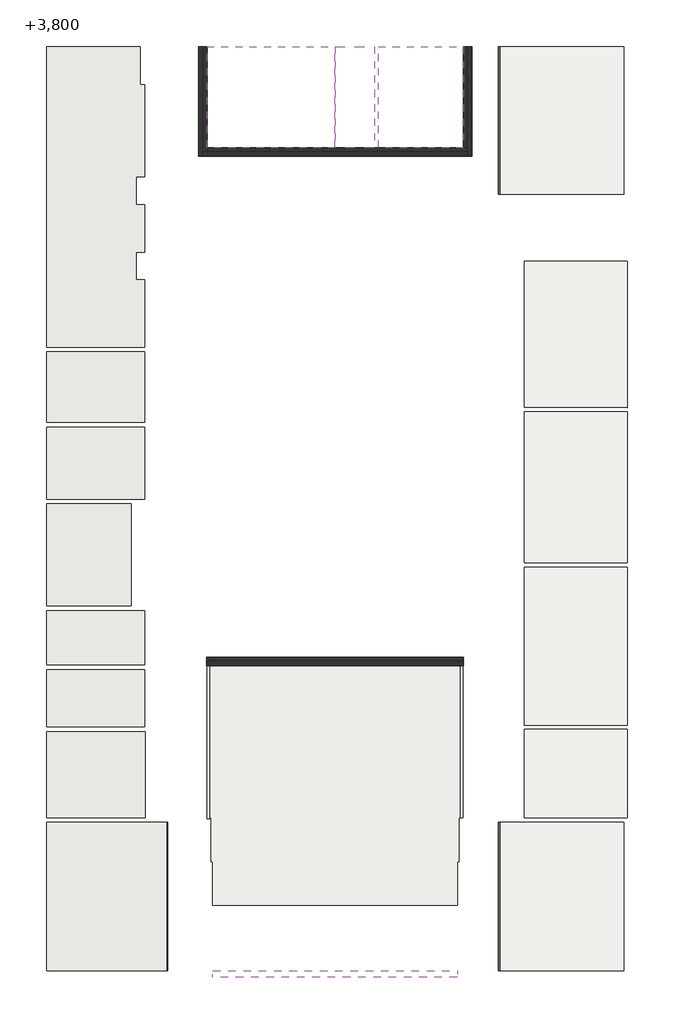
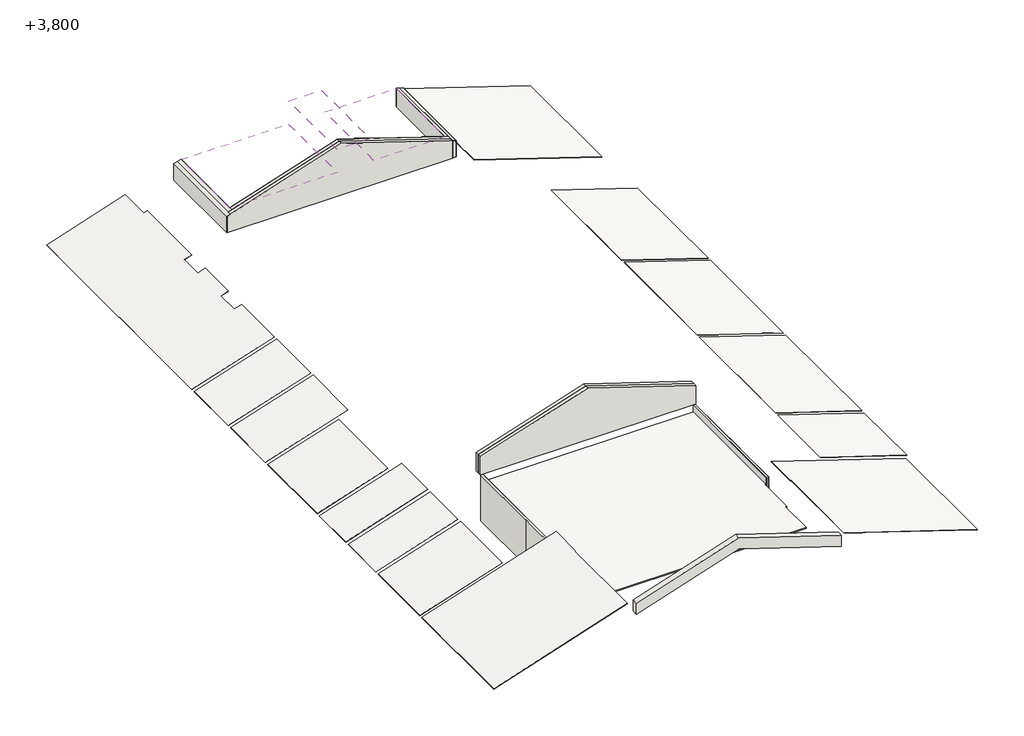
# One storey: 22 walls, 18 coverings.
"""IFC4 building model written with IfcOpenShell, lengths in millimetres."""

from ifc_helpers import new_model, si_unit, frame, origin, place, context, project, spatial, polyline, outline, extrude, faceted_brep, element, save

model = new_model("IFC4")

# Units and contexts
model_context = context("Model", 3, world=origin())
ifc_project = project(units=[si_unit("LENGTHUNIT", "METRE", prefix="MILLI")], contexts=[model_context])

# Site, building, storey
site = spatial("IfcSite", under=ifc_project)
building = spatial("IfcBuilding", under=site)
storey = spatial("IfcBuildingStorey", under=building, Name="+3,800", Elevation=3800.0)

# Coverings
placement = place(None, origin())
element("IfcCovering", 1, ObjectType="ADSK_Потолок_Полимерное покрытие", at=placement, inside=storey, context=model_context, shape_type="SweptSolid", body=[
    extrude(outline(polyline([(4659.9030929, 2392.0415712), (3850.5146222, -99.0), (3840.0, -99.0), (4649.3884706, 2392.0415712), (4659.9030929, 2392.0415712)])), frame((0.0, 10643.0, 0.0), z_axis=(0.0, 1.0, 0.0), x_axis=(0.0, 0.0, 1.0)), (0.0, 0.0, 1.0), 2994.0024506),
])
element("IfcCovering", 2, ObjectType="ADSK_Потолок_Полимерное покрытие", at=placement, inside=storey, context=model_context, shape_type="SweptSolid", body=[
    extrude(outline(polyline([(3814.0146222, 17005.0), (4796.5717837, 13981.0), (4786.0571614, 13981.0), (3803.5, 17005.0), (3814.0146222, 17005.0)])), frame((0.0, 4400.9957095, 0.0), z_axis=(0.0, 1.0, 0.0), x_axis=(0.0, 0.0, 1.0)), (0.0, 0.0, 1.0), 2598.0042905),
])
element("IfcCovering", 3, ObjectType="ADSK_Потолок_Полимерное покрытие", at=placement, inside=storey, context=model_context, shape_type="SweptSolid", body=[
    extrude(outline(polyline([(3814.012817, 17005.0), (4796.5699784, 13981.0), (4786.0553561, 13981.0), (3803.4981947, 17005.0), (3814.012817, 17005.0)])), frame((0.0, 7126.0, 0.0), z_axis=(0.0, 1.0, 0.0), x_axis=(0.0, 0.0, 1.0)), (0.0, 0.0, 1.0), 4648.0),
])
element("IfcCovering", 4, ObjectType="ADSK_Потолок_Полимерное покрытие", at=placement, inside=storey, context=model_context, shape_type="SweptSolid", body=[
    extrude(outline(polyline([(3814.0146222, 17005.0), (4796.5717837, 13981.0), (4786.0571614, 13981.0), (3803.5, 17005.0), (3814.0146222, 17005.0)])), frame((0.0, 11901.0, 0.0), z_axis=(0.0, 1.0, 0.0), x_axis=(0.0, 0.0, 1.0)), (0.0, 0.0, 1.0), 4447.9313142),
])
element("IfcCovering", 5, ObjectType="ADSK_Потолок_Полимерное покрытие", at=placement, inside=storey, context=model_context, shape_type="SweptSolid", body=[
    extrude(outline(polyline([(3814.0146222, 17005.0), (4796.5717837, 13981.0), (4786.0571614, 13981.0), (3803.5, 17005.0), (3814.0146222, 17005.0)])), frame((0.0, 16475.9313142, 0.0), z_axis=(0.0, 1.0, 0.0), x_axis=(0.0, 0.0, 1.0)), (0.0, 0.0, 1.0), 4298.5686858),
])
element("IfcCovering", 6, ObjectType="ADSK_Потолок_Полимерное покрытие", at=placement, inside=storey, context=model_context, shape_type="SweptSolid", body=[
    extrude(outline(polyline([(4790.9158206, 2795.2572865), (3850.5146222, -99.0), (3840.0, -99.0), (4780.4011984, 2795.2572865), (4790.9158206, 2795.2572865)])), frame((0.0, 16039.9976367, 0.0), z_axis=(0.0, 1.0, 0.0), x_axis=(0.0, 0.0, 1.0)), (0.0, 0.0, 1.0), 2070.0023633),
])
element("IfcCovering", 7, ObjectType="ADSK_Потолок_Полимерное покрытие", at=placement, inside=storey, context=model_context, shape_type="SweptSolid", body=[
    extrude(outline(polyline([(4790.9158206, 2795.2572865), (3850.5146222, -99.0), (3840.0, -99.0), (4780.4011984, 2795.2572865), (4790.9158206, 2795.2572865)])), frame((0.0, 13780.0024506, 0.0), z_axis=(0.0, 1.0, 0.0), x_axis=(0.0, 0.0, 1.0)), (0.0, 0.0, 1.0), 2119.9951861),
])
element("IfcCovering", 8, ObjectType="ADSK_Потолок_Полимерное покрытие", at=placement, inside=storey, context=model_context, shape_type="Brep", body=[
    faceted_brep([(12435.0, 23865.0, 5264.4561462), (12406.0, 23865.0, 5273.8788174), (12406.0, 22746.0, 5273.8788174), (16899.0, 22746.0, 3814.0146222), (16899.0, 27100.0, 3814.0146222), (12435.0, 27100.0, 5264.4561462), (12435.0, 23865.0, 5253.941524), (12435.0, 27100.0, 5253.941524), (16899.0, 27100.0, 3803.5), (16899.0, 22746.0, 3803.5), (12406.0, 22746.0, 5263.3641952), (12406.0, 23865.0, 5263.3641952)], [[[0, 1, 2, 3, 4, 5]], [[6, 7, 8, 9, 10, 11]], [[1, 0, 6, 11]], [[2, 1, 11, 10]], [[3, 2, 10, 9]], [[4, 3, 9, 8]], [[5, 4, 8, 7]], [[0, 5, 7, 6]]]),
])
element("IfcCovering", 9, ObjectType="ADSK_Потолок_Полимерное покрытие", at=placement, inside=storey, context=model_context, shape_type="SweptSolid", body=[
    extrude(outline(polyline([(4789.9857435, 2792.3948034), (3850.5146222, -99.0), (3840.0, -99.0), (4779.4711212, 2792.3948034), (4789.9857435, 2792.3948034)])), frame((0.0, 8903.0, 0.0), z_axis=(0.0, 1.0, 0.0), x_axis=(0.0, 0.0, 1.0)), (0.0, 0.0, 1.0), 1594.0),
])
element("IfcCovering", 10, ObjectType="ADSK_Потолок_Полимерное покрытие", at=placement, inside=storey, context=model_context, shape_type="SweptSolid", body=[
    extrude(outline(polyline([(4789.9857435, 2792.3948034), (3850.5146222, -99.0), (3840.0, -99.0), (4779.4711212, 2792.3948034), (4789.9857435, 2792.3948034)])), frame((0.0, 7073.1398515, 0.0), z_axis=(0.0, 1.0, 0.0), x_axis=(0.0, 0.0, 1.0)), (0.0, 0.0, 1.0), 1683.8601485),
])
element("IfcCovering", 11, ObjectType="ADSK_Потолок_Полимерное покрытие", at=placement, inside=storey, context=model_context, shape_type="SweptSolid", body=[
    extrude(outline(polyline([(4792.2150844, 2799.2560094), (3850.5146222, -99.0), (3840.0, -99.0), (4781.7004622, 2799.2560094), (4792.2150844, 2799.2560094)])), frame((0.0, 4400.9957095, 0.0), z_axis=(0.0, 1.0, 0.0), x_axis=(0.0, 0.0, 1.0)), (0.0, 0.0, 1.0), 2528.874142),
])
element("IfcCovering", 12, ObjectType="ADSK_Потолок_Полимерное покрытие", at=placement, inside=storey, context=model_context, shape_type="Brep", body=[
    faceted_brep([(4624.0, 4273.9957095, 5385.1103475), (-99.0, 4273.9957095, 3850.5146222), (-99.0, -99.0, 3850.5146222), (4599.0, -99.0, 5376.9873551), (4599.0, 3101.5, 5376.9873551), (4624.0, 3101.5, 5385.1103475), (4624.0, 4273.9957095, 5374.5957253), (4624.0, 3101.5, 5374.5957253), (4599.0, 3101.5, 5366.4727329), (4599.0, -99.0, 5366.4727329), (-99.0, -99.0, 3840.0), (-99.0, 4273.9957095, 3840.0)], [[[0, 1, 2, 3, 4, 5]], [[6, 7, 8, 9, 10, 11]], [[1, 0, 6, 11]], [[2, 1, 11, 10]], [[3, 2, 10, 9]], [[4, 3, 9, 8]], [[5, 4, 8, 7]], [[0, 5, 7, 6]]]),
])
element("IfcCovering", 13, ObjectType="ADSK_Потолок_Полимерное покрытие", at=placement, inside=storey, context=model_context, shape_type="Brep", body=[
    faceted_brep([(2795.2572865, 20229.9176368, 4790.9158206), (2535.2572925, 20229.9176368, 4706.4367015), (2535.2572925, 21049.9176368, 4706.4367015), (2795.2572865, 21049.9176368, 4790.9158206), (2795.2572865, 22449.9176629, 4790.9158206), (2535.2572925, 22449.9176629, 4706.4367015), (2535.2572925, 23269.9176524, 4706.4367015), (2795.2572865, 23269.9176524, 4790.9158206), (2795.2572865, 25969.9955786, 4790.9158206), (2665.2572865, 25969.9955786, 4748.6762601), (2665.2572865, 27099.0, 4748.6762601), (-99.0, 27099.0, 3850.5146222), (-99.0, 18250.0, 3850.5146222), (2795.2572865, 18250.0, 4790.9158206), (2795.2572865, 20229.9176368, 4780.4011984), (2795.2572865, 18250.0, 4780.4011984), (-99.0, 18250.0, 3840.0), (-99.0, 27099.0, 3840.0), (2665.2572865, 27099.0, 4738.1616379), (2665.2572865, 25969.9955786, 4738.1616379), (2795.2572865, 25969.9955786, 4780.4011984), (2795.2572865, 23269.9176524, 4780.4011984), (2535.2572925, 23269.9176524, 4695.9220793), (2535.2572925, 22449.9176629, 4695.9220793), (2795.2572865, 22449.9176629, 4780.4011984), (2795.2572865, 21049.9176368, 4780.4011984), (2535.2572925, 21049.9176368, 4695.9220793), (2535.2572925, 20229.9176368, 4695.9220793)], [[[0, 1, 2, 3, 4, 5, 6, 7, 8, 9, 10, 11, 12, 13]], [[14, 15, 16, 17, 18, 19, 20, 21, 22, 23, 24, 25, 26, 27]], [[1, 0, 14, 27]], [[2, 1, 27, 26]], [[3, 2, 26, 25]], [[4, 3, 25, 24]], [[5, 4, 24, 23]], [[6, 5, 23, 22]], [[7, 6, 22, 21]], [[8, 7, 21, 20]], [[9, 8, 20, 19]], [[10, 9, 19, 18]], [[11, 10, 18, 17]], [[12, 11, 17, 16]], [[13, 12, 16, 15]], [[0, 13, 15, 14]]]),
])
element("IfcCovering", 14, ObjectType="ADSK_Потолок_Полимерное покрытие", at=placement, inside=storey, context=model_context, shape_type="Brep", body=[
    faceted_brep([(12176.1086127, 3101.0, 5348.5750572), (12201.0, 3101.0, 5340.4873551), (12201.0, -99.0, 5340.4873551), (16899.0, -99.0, 3814.0146222), (16899.0, 4273.9957095, 3814.0146222), (12176.1086127, 4273.9957095, 5348.5750572), (12176.1086127, 3101.0, 5338.0604349), (12176.1086127, 4273.9957095, 5338.0604349), (16899.0, 4273.9957095, 3803.5), (16899.0, -99.0, 3803.5), (12201.0, -99.0, 5329.9727329), (12201.0, 3101.0, 5329.9727329)], [[[0, 1, 2, 3, 4, 5]], [[6, 7, 8, 9, 10, 11]], [[1, 0, 6, 11]], [[2, 1, 11, 10]], [[3, 2, 10, 9]], [[4, 3, 9, 8]], [[5, 4, 8, 7]], [[0, 5, 7, 6]]]),
])
element("IfcCovering", 15, ObjectType="ADSK_Подвесной_Грильято белый 100х100 мм", at=placement, inside=storey, context=model_context, shape_type="SweptSolid", body=[
    extrude(outline(polyline([(4707.5630762, 8865.0000003), (12086.5, 8865.0000003), (12086.5, 4400.9957095), (12049.0, 4400.9957095), (12049.0, 3101.0), (12000.0, 3101.0), (12000.0, 1825.0), (4800.0, 1825.0), (4800.0, 3100.5), (4751.0, 3100.5), (4751.0, 4400.9957095), (4707.5630762, 4400.9957095), (4707.5630762, 8865.0000003)])), frame((0.0, 0.0, 4400.0), z_axis=(0.0, 0.0, 1.0), x_axis=(1.0, 0.0, 0.0)), (0.0, 0.0, 1.0), 40.0),
])
element("IfcCovering", 16, ObjectType="ADSK_Потолок_Полимерное покрытие", at=placement, inside=storey, context=model_context, shape_type="SweptSolid", body=[
    extrude(outline(polyline([(5382.0993046, 12179.0), (6193.7487058, 9681.0), (6183.2340836, 9681.0), (5371.5846824, 12179.0), (5382.0993046, 12179.0)])), frame((0.0, 24126.0, 0.0), z_axis=(0.0, 1.0, 0.0), x_axis=(0.0, 0.0, 1.0)), (0.0, 0.0, 1.0), 2973.0),
])
element("IfcCovering", 17, ObjectType="ADSK_Потолок_Полимерное покрытие", at=placement, inside=storey, context=model_context, shape_type="SweptSolid", body=[
    extrude(outline(polyline([(6235.0406098, 9554.0), (6609.9979392, 8400.0), (6599.483317, 8400.0), (6224.5259875, 9554.0), (6235.0406098, 9554.0)])), frame((0.0, 24126.0, 0.0), z_axis=(0.0, 1.0, 0.0), x_axis=(0.0, 0.0, 1.0)), (0.0, 0.0, 1.0), 2973.0),
])
element("IfcCovering", 18, ObjectType="ADSK_Потолок_Полимерное покрытие", at=placement, inside=storey, context=model_context, shape_type="SweptSolid", body=[
    extrude(outline(polyline([(6609.9931715, 8400.0), (5383.7462379, 4626.0), (5373.2316157, 4626.0), (6599.4785492, 8400.0), (6609.9931715, 8400.0)])), frame((0.0, 24126.0, 0.0), z_axis=(0.0, 1.0, 0.0), x_axis=(0.0, 0.0, 1.0)), (0.0, 0.0, 1.0), 2973.0),
])

# Walls
element("IfcWall", 19, ObjectType="ADSK_Наружная_Сэндвич_Утеплитель_200 RAL 1015", at=placement, inside=storey, context=model_context, shape_type="SweptSolid", body=[
    extrude(outline(polyline([(5440.2611024, 4800.0), (5024.9616899, 4800.0), (6194.6725964, 8400.0), (5024.9616899, 12000.0), (5440.2611024, 12000.0), (6610.0, 8400.0), (5440.2611024, 4800.0)])), frame((0.0, -300.0, 0.0), z_axis=(0.0, 1.0, 0.0), x_axis=(0.0, 0.0, 1.0)), (0.0, 0.0, 1.0), 200.0),
])
element("IfcWall", 20, ObjectType="Перегородка-КНАУФ-С365-Применение внутри здания-200/75@600 ГВЛ(ГВЛВ)  12,5 2", at=placement, inside=storey, context=model_context, shape_type="Brep", body=[
    faceted_brep([(4500.0, 23875.0, 4695.0), (4500.0, 24000.0, 4695.0), (4500.0, 27100.0, 4695.0), (4500.0, 27100.0, 5342.782861), (4500.0, 24000.0, 5342.782861), (4500.0, 23875.0, 5342.782861), (4375.0, 23875.0, 4695.0), (4375.0, 23875.0, 5302.166927), (4375.0, 27100.0, 5302.166927), (4375.0, 27100.0, 4695.0)], [[[0, 1, 2, 3, 4, 5]], [[6, 7, 8, 9]], [[2, 1, 0, 6, 9]], [[0, 5, 7, 6]], [[5, 4, 3, 8, 7]], [[3, 2, 9, 8]]]),
])
element("IfcWall", 21, ObjectType="Облицовка КНАУФ С626 Применение внутри здания ПС50х50 ПН50х40 шаг 400 ГСП-А 12.5", at=placement, inside=storey, context=model_context, shape_type="Brep", body=[
    faceted_brep([(4631.5630762, 4375.0000003, 3000.0), (4631.5630762, 4375.0000003, 4695.0), (4631.5630762, 4400.9957095, 4695.0), (4631.5630762, 5859.0, 4695.0), (4631.5630762, 5859.0, 3000.0), (4631.5630762, 4400.9957095, 3000.0), (4631.5630762, 8875.0000003, 4695.0), (4631.5630762, 8875.0000003, 3000.0), (4631.5630762, 8866.0000003, 3000.0), (4631.5630762, 6141.0, 3000.0), (4631.5630762, 6141.0, 4695.0), (4631.5630762, 8866.0000003, 4695.0), (4706.5630762, 4375.0000003, 3000.0), (4706.5630762, 8875.0000003, 3000.0), (4706.5630762, 8875.0000003, 4695.0), (4706.5630762, 4375.0000003, 4695.0), (4632.5630762, 5859.0, 3000.0), (4632.5630762, 6141.0, 3000.0), (4632.5630762, 6141.0, 4695.0), (4632.5630762, 5859.0, 4695.0)], [[[0, 1, 2, 3, 4, 5]], [[6, 7, 8, 9, 10, 11]], [[12, 13, 14, 15]], [[13, 12, 0, 5, 4, 16, 17, 9, 8, 7]], [[1, 0, 12, 15]], [[15, 14, 6, 11, 10, 18, 19, 3, 2, 1]], [[7, 6, 14, 13]], [[16, 19, 18, 17]], [[19, 16, 4, 3]], [[17, 18, 10, 9]]]),
])
element("IfcWall", 22, ObjectType="Облицовка КНАУФ С626 Применение внутри здания ПС50х50 ПН50х40 шаг 400 ГСП-А 12.5", at=placement, inside=storey, context=model_context, shape_type="Brep", body=[
    faceted_brep([(12087.5, 8866.0000003, 3000.0), (12087.5, 8865.0000003, 3000.0), (12087.5, 4400.9957095, 3000.0), (12087.5, 4399.9957095, 3000.0), (12087.5, 4399.9957095, 4695.0), (12087.5, 4400.9957095, 4695.0), (12087.5, 8865.0000003, 4695.0), (12087.5, 8866.0000003, 4695.0), (12162.5, 4399.9957095, 4695.0), (12162.5, 4399.9957095, 3000.0), (12162.5, 4400.9957095, 3000.0), (12162.5, 5860.0, 3000.0), (12162.5, 5860.0, 4695.0), (12162.5, 4400.9957095, 4695.0), (12162.5, 8866.0000003, 3000.0), (12162.5, 8866.0000003, 4695.0), (12162.5, 8865.0000003, 4695.0), (12162.5, 6141.0, 4695.0), (12162.5, 6141.0, 3000.0), (12162.5, 8865.0000003, 3000.0), (12161.5, 6141.0, 3000.0), (12161.5, 5860.0, 3000.0), (12161.5, 5860.0, 4695.0), (12161.5, 6141.0, 4695.0)], [[[0, 1, 2, 3, 4, 5, 6, 7]], [[8, 9, 10, 11, 12, 13]], [[14, 15, 16, 17, 18, 19]], [[3, 2, 1, 0, 14, 19, 18, 20, 21, 11, 10, 9]], [[4, 3, 9, 8]], [[7, 6, 5, 4, 8, 13, 12, 22, 23, 17, 16, 15]], [[0, 7, 15, 14]], [[20, 23, 22, 21]], [[23, 20, 18, 17]], [[21, 22, 12, 11]]]),
])
element("IfcWall", 23, ObjectType="Отделка - Акриловая покраска по Кнауф-суперлистам_1 мм", at=placement, inside=storey, context=model_context, shape_type="Brep", body=[
    faceted_brep([(4625.0, 24125.0, 4695.0), (9555.0, 24125.0, 4695.0), (9555.0, 24125.0, 6234.7087704), (8400.0, 24125.0, 6610.0), (4625.0, 24125.0, 5383.3987949), (4625.0, 24126.0, 4695.0), (4625.0, 24126.0, 5383.3987949), (4626.0, 24126.0, 5383.7237224), (8400.0, 24126.0, 6610.0), (9555.0, 24126.0, 6234.7087704), (9555.0, 24126.0, 4695.0), (4626.0, 24126.0, 4695.0)], [[[0, 1, 2, 3, 4]], [[5, 6, 7, 8, 9, 10, 11]], [[1, 0, 5, 11, 10]], [[2, 1, 10, 9]], [[0, 4, 6, 5]], [[4, 3, 8, 7, 6]], [[3, 2, 9, 8]]]),
])
element("IfcWall", 24, ObjectType="Отделка - Акриловая покраска по Кнауф-суперлистам_1 мм", at=placement, inside=storey, context=model_context, shape_type="SweptSolid", body=[
    extrude(outline(polyline([(5383.3987949, 4625.0), (4695.0, 4625.0), (4695.0, 4626.0), (5383.7237224, 4626.0), (5383.3987949, 4625.0)])), frame((0.0, 24126.0, 0.0), z_axis=(0.0, 1.0, 0.0), x_axis=(0.0, 0.0, 1.0)), (0.0, 0.0, 1.0), 2973.5),
])
element("IfcWall", 25, ObjectType="Отделка - Акриловая покраска по Кнауф-суперлистам_1 мм", at=placement, inside=storey, context=model_context, shape_type="Brep", body=[
    faceted_brep([(12430.0, 27100.0, 4695.0), (12430.0, 23875.0, 4695.0), (12430.0, 23874.0, 4695.0), (12430.0, 23874.0, 5300.5422897), (12430.0, 23875.0, 5300.5422897), (12430.0, 27100.0, 5300.5422897), (12431.0, 27100.0, 4695.0), (12431.0, 27100.0, 5300.2173622), (12431.0, 23874.0, 5300.2173622), (12431.0, 23874.0, 4695.0)], [[[0, 1, 2, 3, 4, 5]], [[6, 7, 8, 9]], [[2, 1, 0, 6, 9]], [[0, 5, 7, 6]], [[3, 2, 9, 8]], [[5, 4, 3, 8, 7]]]),
])
element("IfcWall", 26, ObjectType="Отделка - Акриловая покраска по Кнауф-суперлистам_1 мм", at=placement, inside=storey, context=model_context, shape_type="Brep", body=[
    faceted_brep([(12430.0, 23875.0, 5300.5422897), (12430.0, 23875.0, 4695.0), (12195.0, 23875.0, 4695.0), (12194.0, 23875.0, 4695.0), (4395.0630762, 23875.0, 4695.0), (4395.0630762, 23875.0, 5308.6859716), (8400.0, 23875.0, 6610.0), (12430.0, 23874.0, 4695.0), (12430.0, 23874.0, 5300.5422897), (12195.0, 23874.0, 5376.9002455), (12194.0, 23874.0, 5377.225173), (8400.0, 23874.0, 6610.0), (4395.0630762, 23874.0, 5308.6859716), (4395.0630762, 23874.0, 4695.0), (12194.0, 23874.0, 4695.0), (12195.0, 23874.0, 4695.0)], [[[0, 1, 2, 3, 4, 5, 6]], [[7, 8, 9, 10, 11, 12, 13, 14, 15]], [[1, 7, 15, 14, 13, 4, 3, 2]], [[1, 0, 8, 7]], [[8, 0, 6, 11, 10, 9]], [[11, 6, 5, 12]], [[5, 4, 13, 12]]]),
    faceted_brep([(4374.0, 23875.0, 4695.0), (4374.0, 23875.0, 5301.8419996), (4375.0, 23875.0, 5302.166927), (4394.0630762, 23875.0, 5308.3610442), (4394.0630762, 23875.0, 4695.0), (4375.0, 23875.0, 4695.0), (4374.0, 23874.0, 5301.8419996), (4374.0, 23874.0, 4695.0), (4394.0630762, 23874.0, 4695.0), (4394.0630762, 23874.0, 5308.3610442)], [[[0, 1, 2, 3, 4, 5]], [[6, 7, 8, 9]], [[7, 0, 5, 4, 8]], [[1, 0, 7, 6]], [[1, 6, 9, 3, 2]], [[4, 3, 9, 8]]]),
])
element("IfcWall", 27, ObjectType="Отделка - Акриловая покраска по Кнауф-суперлистам_1 мм", at=placement, inside=storey, context=model_context, shape_type="SweptSolid", body=[
    extrude(outline(polyline([(4695.0, 4375.0), (5302.166927, 4375.0), (5301.8419996, 4374.0), (4695.0, 4374.0), (4695.0, 4375.0)])), frame((0.0, 23875.0, 0.0), z_axis=(0.0, 1.0, 0.0), x_axis=(0.0, 0.0, 1.0)), (0.0, 0.0, 1.0), 3225.0),
])
element("IfcWall", 28, ObjectType="Отделка - Акриловая покраска по Кнауф-суперлистам_1 мм", at=placement, inside=storey, context=model_context, shape_type="SweptSolid", body=[
    extrude(outline(polyline([(4695.0, 9680.0), (4695.0, 12180.0), (5381.7741576, 12180.0), (6194.0928364, 9680.0), (4695.0, 9680.0)])), frame((0.0, 24125.0, 0.0), z_axis=(0.0, 1.0, 0.0), x_axis=(0.0, 0.0, 1.0)), (0.0, 0.0, 1.0), 1.0),
])
element("IfcWall", 29, ObjectType="Отделка - Акриловая покраска по Кнауф-суперлистам_1 мм", at=placement, inside=storey, context=model_context, shape_type="SweptSolid", body=[
    extrude(outline(polyline([(4695.0, 12180.0), (5381.7741576, 12180.0), (5382.099085, 12179.0), (4695.0, 12179.0), (4695.0, 12180.0)])), frame((0.0, 24126.0, 0.0), z_axis=(0.0, 1.0, 0.0), x_axis=(0.0, 0.0, 1.0)), (0.0, 0.0, 1.0), 2923.0),
])
element("IfcWall", 30, ObjectType="Перегородка-КНАУФ-С365-Применение внутри здания-200/75@600 ГВЛ(ГВЛВ)  12,5 2", at=placement, inside=storey, context=model_context, shape_type="Brep", body=[
    faceted_brep([(12430.0, 23875.0, 4695.0), (12430.0, 27100.0, 4695.0), (12430.0, 27100.0, 5300.5422897), (12430.0, 23875.0, 5300.5422897), (12305.0, 23875.0, 4695.0), (12305.0, 23875.0, 5341.1582236), (12305.0, 24000.0, 5341.1582236), (12305.0, 24125.0, 5341.1582236), (12305.0, 27100.0, 5341.1582236), (12305.0, 27100.0, 4695.0), (12305.0, 24125.0, 4695.0), (12305.0, 24000.0, 4695.0)], [[[0, 1, 2, 3]], [[4, 5, 6, 7, 8, 9, 10, 11]], [[1, 0, 4, 11, 10, 9]], [[0, 3, 5, 4]], [[2, 1, 9, 8]], [[3, 2, 8, 7, 6, 5]]]),
])
element("IfcWall", 31, ObjectType="Перегородка-КНАУФ-С365-Применение внутри здания-200/75@600 ГВЛ(ГВЛВ)  12,5 2", at=placement, inside=storey, context=model_context, shape_type="SweptSolid", body=[
    extrude(outline(polyline([(4695.0, 12305.0), (5341.1582236, 12305.0), (5381.7741576, 12180.0), (4695.0, 12180.0), (4695.0, 12305.0)])), frame((0.0, 24125.0, 0.0), z_axis=(0.0, 1.0, 0.0), x_axis=(0.0, 0.0, 1.0)), (0.0, 0.0, 1.0), 2975.0),
])
element("IfcWall", 32, ObjectType="Перегородка-КНАУФ-С365-Применение внутри здания-200/75@600 ГВЛ(ГВЛВ)  12,5 2", at=placement, inside=storey, context=model_context, shape_type="Brep", body=[
    faceted_brep([(12305.0, 24125.0, 4695.0), (12180.0, 24125.0, 4695.0), (4625.0, 24125.0, 4695.0), (4625.0, 24125.0, 5383.3987949), (8400.0, 24125.0, 6610.0), (9554.0, 24125.0, 6235.0336978), (9555.0, 24125.0, 6234.7087704), (9680.0, 24125.0, 6194.0928364), (12180.0, 24125.0, 5381.7741576), (12305.0, 24125.0, 5341.1582236), (12305.0, 24000.0, 4695.0), (12305.0, 24000.0, 5341.1582236), (8400.0, 24000.0, 6610.0), (4625.0, 24000.0, 5383.3987949), (4625.0, 24000.0, 4695.0)], [[[0, 1, 2, 3, 4, 5, 6, 7, 8, 9]], [[10, 11, 12, 13, 14]], [[2, 1, 0, 10, 14]], [[4, 3, 13, 12]], [[9, 8, 7, 6, 5, 4, 12, 11]], [[3, 2, 14, 13]], [[0, 9, 11, 10]]]),
])
element("IfcWall", 33, ObjectType="Перегородка-КНАУФ-С365-Применение внутри здания-200/75@600 ГВЛ(ГВЛВ)  12,5 2", at=placement, inside=storey, context=model_context, shape_type="Brep", body=[
    faceted_brep([(4625.0, 24000.0, 4695.0), (4625.0, 24125.0, 4695.0), (4625.0, 27100.0, 4695.0), (4625.0, 27100.0, 5383.3987949), (4625.0, 24125.0, 5383.3987949), (4625.0, 24000.0, 5383.3987949), (4500.0, 24000.0, 4695.0), (4500.0, 24000.0, 5342.782861), (4500.0, 27100.0, 5342.782861), (4500.0, 27100.0, 4695.0)], [[[0, 1, 2, 3, 4, 5]], [[6, 7, 8, 9]], [[2, 1, 0, 6, 9]], [[3, 2, 9, 8]], [[0, 5, 7, 6]], [[5, 4, 3, 8, 7]]]),
])
element("IfcWall", 34, ObjectType="Перегородка-КНАУФ-С365-Применение внутри здания-200/75@600 ГВЛ(ГВЛВ)  12,5 2", at=placement, inside=storey, context=model_context, shape_type="SweptSolid", body=[
    extrude(outline(polyline([(4695.0, 12305.0), (5341.1582236, 12305.0), (6610.0, 8400.0), (5342.782861, 4500.0), (4695.0, 4500.0), (4695.0, 12305.0)])), frame((0.0, 23875.0, 0.0), z_axis=(0.0, 1.0, 0.0), x_axis=(0.0, 0.0, 1.0)), (0.0, 0.0, 1.0), 125.0),
])
element("IfcWall", 35, ObjectType="Перегородка-КНАУФ-С365-Применение внутри здания-200/75@600 ГВЛ(ГВЛВ)", at=placement, inside=storey, context=model_context, shape_type="Brep", body=[
    faceted_brep([(12181.0630762, 9125.0, 4695.0), (4619.0630762, 9125.0, 4695.0), (4619.0630762, 9125.0, 5381.4697253), (8400.0, 9125.0, 6610.0), (11695.0, 9125.0, 5539.3639813), (12181.0630762, 9125.0, 5381.4287349), (12181.0630762, 9000.0, 4695.0), (12181.0630762, 9000.0, 5381.4287349), (8400.0, 9000.0, 6610.0), (4619.0630762, 9000.0, 5381.4697253), (4619.0630762, 9000.0, 4695.0), (12181.0630762, 9100.0, 5381.4287349)], [[[0, 1, 2, 3, 4, 5]], [[6, 7, 8, 9, 10]], [[1, 0, 6, 10]], [[2, 1, 10, 9]], [[0, 5, 11, 7, 6]], [[5, 4, 3, 8, 7, 11]], [[3, 2, 9, 8]]]),
])
element("IfcWall", 36, ObjectType="Перегородка-КНАУФ-С365-Применение внутри здания-200/75@600 ГВЛ(ГВЛВ)  12,5 2", at=placement, inside=storey, context=model_context, shape_type="Brep", body=[
    faceted_brep([(12181.0630762, 9000.0, 4695.0), (4619.0630762, 9000.0, 4695.0), (4619.0630762, 9000.0, 5381.4697253), (8400.0, 9000.0, 6610.0), (12181.0630762, 9000.0, 5381.4287349), (12181.0630762, 8875.0, 4695.0), (12181.0630762, 8875.0, 5381.4287349), (8400.0, 8875.0, 6610.0), (4619.0630762, 8875.0, 5381.4697253), (4619.0630762, 8875.0, 4695.0), (12181.0630762, 8900.0, 5381.4287349)], [[[0, 1, 2, 3, 4]], [[5, 6, 7, 8, 9]], [[1, 0, 5, 9]], [[2, 1, 9, 8]], [[0, 4, 10, 6, 5]], [[4, 3, 7, 6, 10]], [[3, 2, 8, 7]]]),
])
element("IfcWall", 37, ObjectType="Отделка - Акриловая покраска по Кнауф-суперлистам_1 мм", at=placement, inside=storey, context=model_context, shape_type="SweptSolid", body=[
    extrude(outline(polyline([(12087.5, 4400.9957095), (12086.5, 4400.9957095), (12086.5, 8865.0000003), (12087.5, 8865.0000003), (12087.5, 4400.9957095)])), frame((0.0, 0.0, 3000.0), z_axis=(0.0, 0.0, 1.0), x_axis=(1.0, 0.0, 0.0)), (0.0, 0.0, 1.0), 1695.0),
])
element("IfcWall", 38, ObjectType="Отделка - Акриловая покраска по Кнауф-суперлистам_1 мм", at=placement, inside=storey, context=model_context, shape_type="Brep", body=[
    faceted_brep([(12163.5, 4400.9957095, 3000.0), (12163.5, 5859.0, 3000.0), (12163.5, 5860.0, 3000.0), (12163.5, 6140.0, 3000.0), (12163.5, 6141.0, 3000.0), (12163.5, 8865.0000003, 3000.0), (12163.5, 8865.0000003, 4695.0), (12163.5, 6141.0, 4695.0), (12163.5, 6140.0, 4695.0), (12163.5, 5860.0, 4695.0), (12163.5, 5859.0, 4695.0), (12163.5, 4400.9957095, 4695.0), (12162.5, 4400.9957095, 3000.0), (12162.5, 4400.9957095, 4695.0), (12162.5, 5859.0, 4695.0), (12162.5, 5860.0, 4695.0), (12162.5, 6140.0, 4695.0), (12162.5, 6141.0, 4695.0), (12162.5, 8865.0000003, 4695.0), (12162.5, 8865.0000003, 3000.0), (12162.5, 6141.0, 3000.0), (12162.5, 6140.0, 3000.0), (12162.5, 5860.0, 3000.0), (12162.5, 5859.0, 3000.0)], [[[0, 1, 2, 3, 4, 5, 6, 7, 8, 9, 10, 11]], [[12, 13, 14, 15, 16, 17, 18, 19, 20, 21, 22, 23]], [[5, 4, 3, 2, 1, 0, 12, 23, 22, 21, 20, 19]], [[11, 10, 9, 8, 7, 6, 18, 17, 16, 15, 14, 13]], [[0, 11, 13, 12]], [[6, 5, 19, 18]]]),
])
element("IfcWall", 39, ObjectType="Отделка - Акриловая покраска по Кнауф-суперлистам_1 мм", at=placement, inside=storey, context=model_context, shape_type="Brep", body=[
    faceted_brep([(4631.5630762, 8866.0000003, 3000.0), (4631.5630762, 8866.0000003, 4695.0), (4631.5630762, 6141.0, 4695.0), (4631.5630762, 6141.0, 3000.0), (4630.5630762, 8866.0000003, 4695.0), (4630.5630762, 8866.0000003, 3000.0), (4630.5630762, 6141.0, 3000.0), (4630.5630762, 6141.0, 4695.0)], [[[0, 1, 2, 3]], [[4, 5, 6, 7]], [[5, 0, 3, 6]], [[1, 0, 5, 4]], [[1, 4, 7, 2]], [[3, 2, 7, 6]]]),
    faceted_brep([(4631.5630762, 4400.9957095, 4695.0), (4631.5630762, 4400.9957095, 3000.0), (4631.5630762, 5859.0, 3000.0), (4631.5630762, 5860.0, 3000.0), (4631.5630762, 6115.0, 3000.0), (4631.5630762, 6115.0, 4695.0), (4631.5630762, 5860.0, 4695.0), (4631.5630762, 5859.0, 4695.0), (4630.5630762, 4400.9957095, 3000.0), (4630.5630762, 4400.9957095, 4695.0), (4630.5630762, 5859.0, 4695.0), (4630.5630762, 5860.0, 4695.0), (4630.5630762, 6115.0, 4695.0), (4630.5630762, 6115.0, 3000.0), (4630.5630762, 5860.0, 3000.0), (4630.5630762, 5859.0, 3000.0)], [[[0, 1, 2, 3, 4, 5, 6, 7]], [[8, 9, 10, 11, 12, 13, 14, 15]], [[1, 8, 15, 14, 13, 4, 3, 2]], [[9, 0, 7, 6, 5, 12, 11, 10]], [[1, 0, 9, 8]], [[5, 4, 13, 12]]]),
])
element("IfcWall", 40, ObjectType="Отделка - Акриловая покраска по Кнауф-суперлистам_1 мм", at=placement, inside=storey, context=model_context, shape_type="SweptSolid", body=[
    extrude(outline(polyline([(4707.5630762, 8865.0000003), (4707.5630762, 4400.9957095), (4706.5630762, 4400.9957095), (4706.5630762, 8865.0000003), (4707.5630762, 8865.0000003)])), frame((0.0, 0.0, 3000.0), z_axis=(0.0, 0.0, 1.0), x_axis=(1.0, 0.0, 0.0)), (0.0, 0.0, 1.0), 1695.0),
])

save(model, "model.ifc")
